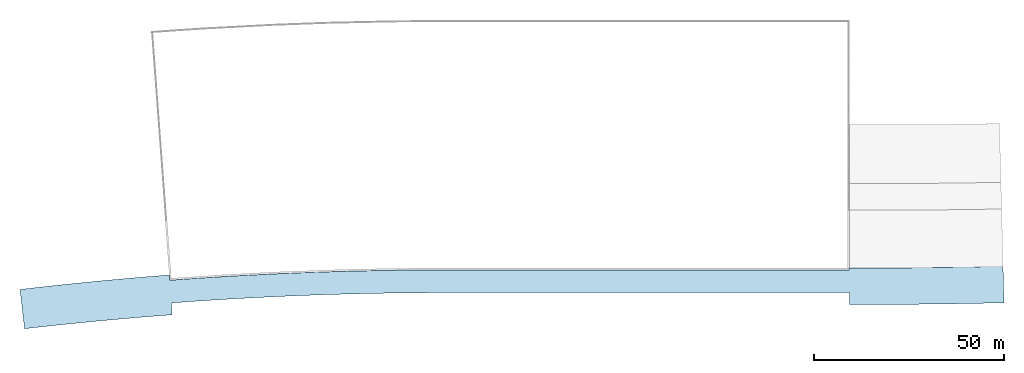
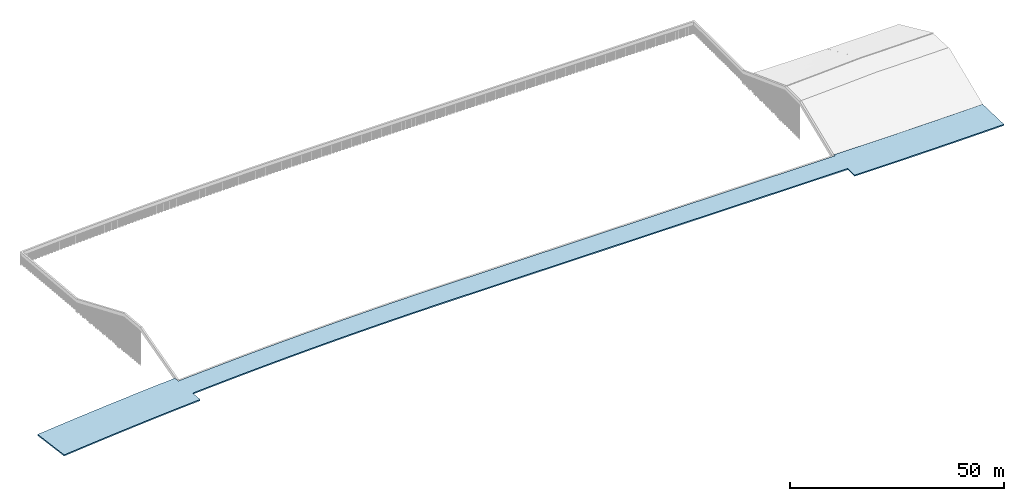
# One storey, part 1 of 15: 1 slab.
"""IFC2X3 building model written with IfcOpenShell, lengths in millimetres."""

from ifc_helpers import new_model, entity, si_unit, converted_unit, derived_unit, direction, frame, frame_2d, origin, place, context, subcontext, project, spatial, polyline, circle_curve, parameter, trimmed, segment, composite_curve, outline, extrude, type_object, element, save


model = new_model("IFC2X3")

# Units and contexts
model_context = context("Model", 3, precision=0.01, world=origin(), true_north=direction((6.12303176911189e-17, 1.0)))
body_context = subcontext(model_context, "Body", "Model", "MODEL_VIEW")
ifc_project = project(units=[si_unit("LENGTHUNIT", "METRE", prefix="MILLI"), si_unit("AREAUNIT", "SQUARE_METRE"), si_unit("VOLUMEUNIT", "CUBIC_METRE"), converted_unit("PLANEANGLEUNIT", "DEGREE", entity("IfcRatioMeasure", 0.0174532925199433), si_unit("PLANEANGLEUNIT", "RADIAN"), dimensions=[0, 0, 0, 0, 0, 0, 0]), si_unit("MASSUNIT", "GRAM", prefix="KILO"), derived_unit("MASSDENSITYUNIT", [(si_unit("MASSUNIT", "GRAM", prefix="KILO"), 1), (si_unit("LENGTHUNIT", "METRE"), -3)]), derived_unit("MOMENTOFINERTIAUNIT", [(si_unit("LENGTHUNIT", "METRE"), 4)]), si_unit("TIMEUNIT", "SECOND"), si_unit("FREQUENCYUNIT", "HERTZ"), si_unit("THERMODYNAMICTEMPERATUREUNIT", "DEGREE_CELSIUS"), derived_unit("THERMALTRANSMITTANCEUNIT", [(si_unit("MASSUNIT", "GRAM", prefix="KILO"), 1), (si_unit("THERMODYNAMICTEMPERATUREUNIT", "KELVIN"), -1), (si_unit("TIMEUNIT", "SECOND"), -3)]), derived_unit("VOLUMETRICFLOWRATEUNIT", [(si_unit("LENGTHUNIT", "METRE"), 3), (si_unit("TIMEUNIT", "SECOND"), -1)]), si_unit("ELECTRICCURRENTUNIT", "AMPERE"), si_unit("ELECTRICVOLTAGEUNIT", "VOLT"), si_unit("POWERUNIT", "WATT"), si_unit("FORCEUNIT", "NEWTON", prefix="KILO"), si_unit("ILLUMINANCEUNIT", "LUX"), si_unit("LUMINOUSFLUXUNIT", "LUMEN"), si_unit("LUMINOUSINTENSITYUNIT", "CANDELA"), derived_unit("USERDEFINED", [(si_unit("MASSUNIT", "GRAM", prefix="KILO"), -1), (si_unit("LENGTHUNIT", "METRE"), -2), (si_unit("TIMEUNIT", "SECOND"), 3), (si_unit("LUMINOUSFLUXUNIT", "LUMEN"), 1)]), derived_unit("LINEARVELOCITYUNIT", [(si_unit("LENGTHUNIT", "METRE"), 1), (si_unit("TIMEUNIT", "SECOND"), -1)]), si_unit("PRESSUREUNIT", "PASCAL"), derived_unit("USERDEFINED", [(si_unit("LENGTHUNIT", "METRE"), -2), (si_unit("MASSUNIT", "GRAM", prefix="KILO"), 1), (si_unit("TIMEUNIT", "SECOND"), -2)]), derived_unit("LINEARFORCEUNIT", [(si_unit("MASSUNIT", "GRAM", prefix="KILO"), 1), (si_unit("LENGTHUNIT", "METRE"), 1), (si_unit("TIMEUNIT", "SECOND"), -2), (si_unit("LENGTHUNIT", "METRE"), -1)]), derived_unit("PLANARFORCEUNIT", [(si_unit("MASSUNIT", "GRAM", prefix="KILO"), 1), (si_unit("LENGTHUNIT", "METRE"), 1), (si_unit("TIMEUNIT", "SECOND"), -2), (si_unit("LENGTHUNIT", "METRE"), -2)])], contexts=[model_context])

# Site, building, storey
site_placement = place(None, origin())
site = spatial("IfcSite", under=ifc_project, at=site_placement, Name="Default", CompositionType="ELEMENT")
building_placement = place(site_placement, origin())
building = spatial("IfcBuilding", under=site, at=building_placement, CompositionType="ELEMENT")
storey_placement = place(building_placement, frame((0.0, 0.0, 9500.0)))
storey = spatial("IfcBuildingStorey", under=building, at=storey_placement, Name="AP+9.500", CompositionType="ELEMENT", Elevation=9500.0)

# Slab
slab_type = type_object("IfcSlabType", Name="かごマット3:かごマット", PredefinedType="BASESLAB")
slab_placement = place(storey_placement, origin())
element("IfcSlab", 1, at=slab_placement, inside=storey, type_object=slab_type, Name="かごマット3:かごマット", ObjectType="かごマット3:かごマット", PredefinedType="BASESLAB", context=body_context, shape_type="SweptSolid", body=[
    extrude(outline(composite_curve([segment(polyline([(-79546.6234491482, -5133.61076109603), (26038.9123520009, -5133.61076109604)]), True, "CONTINUOUS"), segment(trimmed(circle_curve(frame_2d((26038.9123519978, 979166.389238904), x_axis=(-1.0, 0.0)), 984300.0), [parameter(90.0000000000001)], [parameter(94.2624859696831)], True, "PARAMETER"), True, "CONTINUOUS"), segment(polyline([(99197.8075996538, -2411.04838185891), (99301.5158476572, -3802.50838114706)]), True, "CONTINUOUS"), segment(trimmed(circle_curve(frame_2d((23986.4151932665, 974486.650032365), x_axis=(-1.0, 0.0)), 981184.0), [parameter(94.4023203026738)], [parameter(96.7046195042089)], True, "PARAMETER"), True, "CONTINUOUS"), segment(polyline([(138540.443579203, 12.7322507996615), (137352.015805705, 10356.1772492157)]), True, "CONTINUOUS"), segment(trimmed(circle_curve(frame_2d((26038.9123519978, 979166.389238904), x_axis=(-1.0, 0.0)), 975184.0), [parameter(94.2624859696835)], [parameter(96.5543553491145)], True, "PARAMETER"), False, "CONTINUOUS"), segment(polyline([(98520.2535113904, 6679.73686791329), (98751.8527368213, 3572.35568775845)]), True, "CONTINUOUS"), segment(trimmed(circle_curve(frame_2d((26038.9123519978, 979166.389238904), x_axis=(-1.0, 0.0)), 978300.0), [parameter(90.0000000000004)], [parameter(94.2624859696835)], True, "PARAMETER"), False, "CONTINUOUS"), segment(polyline([(26038.9123519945, 866.389238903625), (-79578.086350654, 866.389238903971)]), True, "CONTINUOUS"), segment(polyline([(-79578.086350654, 866.389238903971), (-79578.086350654, 3982.38923890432)]), True, "CONTINUOUS"), segment(polyline([(-79578.086350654, 3982.38923890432), (-82603.5075980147, 3982.3892389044)]), True, "CONTINUOUS"), segment(trimmed(circle_curve(frame_2d((-82583.5136741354, -1520833.61063001), x_axis=(-1.0, 0.0)), 1524816.0), [parameter(270.00075128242)], [parameter(271.413108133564)], True, "PARAMETER"), True, "CONTINUOUS"), segment(polyline([(-120186.832264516, 3518.65321420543), (-119949.821672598, -6089.2124181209)]), True, "CONTINUOUS"), segment(trimmed(circle_curve(frame_2d((-82751.1308386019, -1524449.6107611), x_axis=(-1.0, 0.0)), 1518816.0), [parameter(270.0)], [parameter(271.403422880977)], True, "PARAMETER"), False, "CONTINUOUS"), segment(polyline([(-82751.130838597, -5633.61076109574), (-79547.6252602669, -5633.61076109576)]), True, "CONTINUOUS"), segment(polyline([(-79547.6252602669, -5633.61076109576), (-79546.6234491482, -5133.61076109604)]), True, "CONTINUOUS")], self_intersect=False)), frame((10425.913649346, -20833.6107610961, 750.0), z_axis=(0.0, 0.0, 1.0), x_axis=(-1.0, 0.0, 0.0)), (0.0, 0.0, 1.0), 350.000000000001),
])

save(model, "model.ifc")
